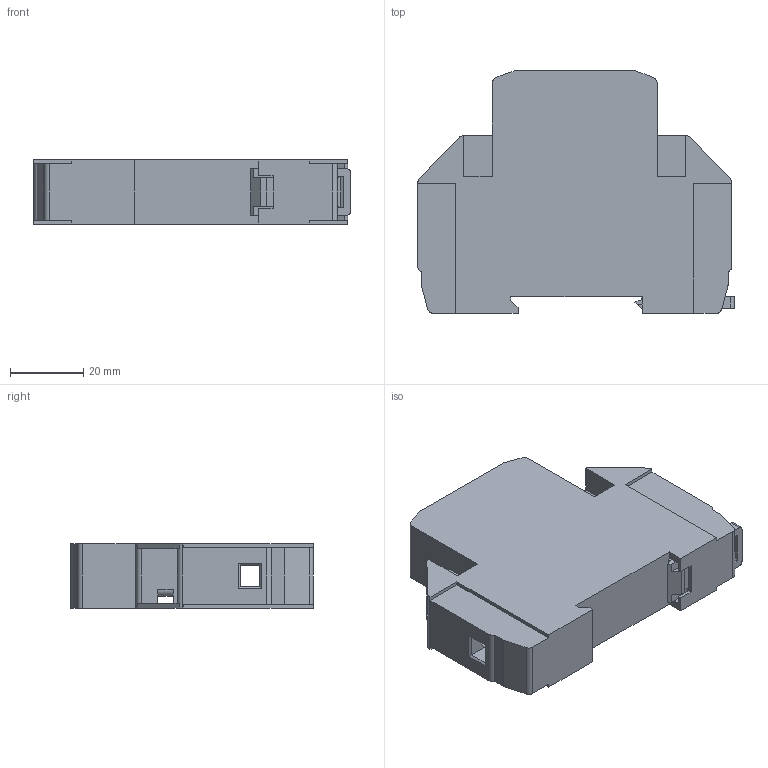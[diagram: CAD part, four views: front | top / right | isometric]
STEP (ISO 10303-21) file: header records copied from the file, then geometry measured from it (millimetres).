
FILE_DESCRIPTION (( 'STEP AP214' ), '1' );
FILE_NAME ('RLP.step', '2011-08-12T06:58:31', ( 'Radek Veselý' ), ( 'Siemens and Partners' ), 'SwSTEP 2.0', 'SolidWorks 2006303', '' );
FILE_SCHEMA (( 'AUTOMOTIVE_DESIGN' ));
Length unit declared in the file: millimetre
Products named in the file (1): RLP
Bounding box: 86.49 x 66.29 x 17.5 mm (x, y, z)
Volume: 70847.8 mm3; surface area: 21488.5 mm2
Topology: 6 solids, 6 shells, 294 faces, 787 edges, 510 vertices
Faces by surface type: plane 194, cylinder 80, cone 12, torus 4, sphere 4
Entity records: 12659 total; most frequent: CARTESIAN_POINT 1980, ORIENTED_EDGE 1574, DIRECTION 1511, EDGE_CURVE 787, AXIS2_PLACEMENT_3D 513, VERTEX_POINT 510, LINE 485, VECTOR 485
